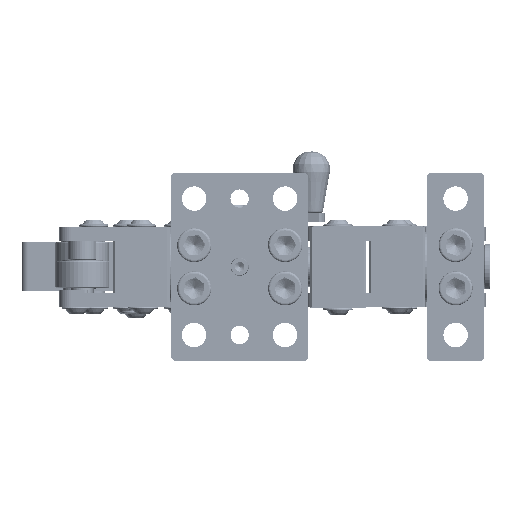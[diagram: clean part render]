
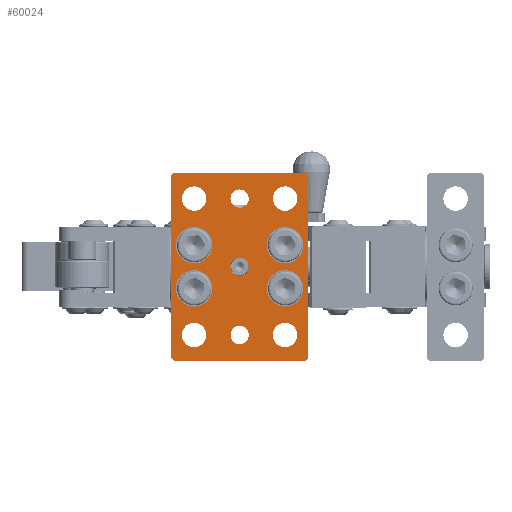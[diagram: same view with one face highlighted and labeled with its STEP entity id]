
A CAD part, left-side view. The second image highlights one B-rep face of the part: STEP entity #60024.
In plain terms, the highlighted planar face has unit normal (-1, 0, 0) as drawn and (0, 0, -1) by its records, which use the part's own axes.
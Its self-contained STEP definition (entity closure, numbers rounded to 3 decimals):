
#4392=FACE_BOUND('',#13162,.T.);
#4393=FACE_BOUND('',#13163,.T.);
#4394=FACE_BOUND('',#13164,.T.);
#4395=FACE_BOUND('',#13165,.T.);
#4396=FACE_BOUND('',#13166,.T.);
#4397=FACE_BOUND('',#13167,.T.);
#4398=FACE_BOUND('',#13168,.T.);
#4399=FACE_BOUND('',#13169,.T.);
#4400=FACE_BOUND('',#13170,.T.);
#4401=FACE_BOUND('',#13171,.T.);
#4402=FACE_BOUND('',#13172,.T.);
#6283=PLANE('',#63271);
#9265=FACE_OUTER_BOUND('',#13161,.T.);
#13161=EDGE_LOOP('',(#54195,#54196,#54197,#54198,#54199,#54200,#54201,#54202));
#13162=EDGE_LOOP('',(#54203));
#13163=EDGE_LOOP('',(#54204));
#13164=EDGE_LOOP('',(#54205));
#13165=EDGE_LOOP('',(#54206));
#13166=EDGE_LOOP('',(#54207));
#13167=EDGE_LOOP('',(#54208));
#13168=EDGE_LOOP('',(#54209));
#13169=EDGE_LOOP('',(#54210));
#13170=EDGE_LOOP('',(#54211));
#13171=EDGE_LOOP('',(#54212));
#13172=EDGE_LOOP('',(#54213));
#18946=LINE('',#102118,#24660);
#18953=LINE('',#102130,#24667);
#18959=LINE('',#102142,#24673);
#18961=LINE('',#102146,#24675);
#18963=LINE('',#102152,#24677);
#18965=LINE('',#102156,#24679);
#18970=LINE('',#102164,#24684);
#18973=LINE('',#102215,#24687);
#24660=VECTOR('',#73912,2.828);
#24667=VECTOR('',#73921,161.);
#24673=VECTOR('',#73931,2.828);
#24675=VECTOR('',#73935,116.);
#24677=VECTOR('',#73941,2.828);
#24679=VECTOR('',#73945,161.);
#24684=VECTOR('',#73952,2.828);
#24687=VECTOR('',#74019,116.);
#25924=CIRCLE('',#63197,8.05);
#25927=CIRCLE('',#63201,8.05);
#25928=CIRCLE('',#63203,8.05);
#25931=CIRCLE('',#63209,10.75);
#25935=CIRCLE('',#63216,10.75);
#25939=CIRCLE('',#63223,10.75);
#25942=CIRCLE('',#63229,10.75);
#25949=CIRCLE('',#63250,16.);
#25952=CIRCLE('',#63256,16.);
#25955=CIRCLE('',#63262,16.);
#25958=CIRCLE('',#63268,16.);
#30814=VERTEX_POINT('',#102059);
#30817=VERTEX_POINT('',#102066);
#30818=VERTEX_POINT('',#102069);
#30821=VERTEX_POINT('',#102078);
#30825=VERTEX_POINT('',#102089);
#30829=VERTEX_POINT('',#102100);
#30832=VERTEX_POINT('',#102109);
#30835=VERTEX_POINT('',#102115);
#30836=VERTEX_POINT('',#102117);
#30840=VERTEX_POINT('',#102128);
#30844=VERTEX_POINT('',#102140);
#30845=VERTEX_POINT('',#102144);
#30846=VERTEX_POINT('',#102149);
#30847=VERTEX_POINT('',#102151);
#30848=VERTEX_POINT('',#102155);
#30857=VERTEX_POINT('',#102184);
#30860=VERTEX_POINT('',#102193);
#30863=VERTEX_POINT('',#102202);
#30866=VERTEX_POINT('',#102211);
#38768=EDGE_CURVE('',#30814,#30814,#25924,.T.);
#38771=EDGE_CURVE('',#30817,#30817,#25927,.T.);
#38772=EDGE_CURVE('',#30818,#30818,#25928,.T.);
#38775=EDGE_CURVE('',#30821,#30821,#25931,.T.);
#38779=EDGE_CURVE('',#30825,#30825,#25935,.T.);
#38783=EDGE_CURVE('',#30829,#30829,#25939,.T.);
#38786=EDGE_CURVE('',#30832,#30832,#25942,.T.);
#38789=EDGE_CURVE('',#30835,#30836,#18946,.T.);
#38796=EDGE_CURVE('',#30835,#30840,#18953,.T.);
#38802=EDGE_CURVE('',#30844,#30840,#18959,.T.);
#38804=EDGE_CURVE('',#30844,#30845,#18961,.T.);
#38806=EDGE_CURVE('',#30846,#30847,#18963,.T.);
#38808=EDGE_CURVE('',#30848,#30847,#18965,.T.);
#38813=EDGE_CURVE('',#30848,#30845,#18970,.T.);
#38822=EDGE_CURVE('',#30857,#30857,#25949,.T.);
#38825=EDGE_CURVE('',#30860,#30860,#25952,.T.);
#38828=EDGE_CURVE('',#30863,#30863,#25955,.T.);
#38831=EDGE_CURVE('',#30866,#30866,#25958,.T.);
#38832=EDGE_CURVE('',#30846,#30836,#18973,.T.);
#54195=ORIENTED_EDGE('',*,*,#38789,.F.);
#54196=ORIENTED_EDGE('',*,*,#38796,.T.);
#54197=ORIENTED_EDGE('',*,*,#38802,.F.);
#54198=ORIENTED_EDGE('',*,*,#38804,.T.);
#54199=ORIENTED_EDGE('',*,*,#38813,.F.);
#54200=ORIENTED_EDGE('',*,*,#38808,.T.);
#54201=ORIENTED_EDGE('',*,*,#38806,.F.);
#54202=ORIENTED_EDGE('',*,*,#38832,.T.);
#54203=ORIENTED_EDGE('',*,*,#38768,.T.);
#54204=ORIENTED_EDGE('',*,*,#38771,.T.);
#54205=ORIENTED_EDGE('',*,*,#38772,.T.);
#54206=ORIENTED_EDGE('',*,*,#38775,.T.);
#54207=ORIENTED_EDGE('',*,*,#38779,.T.);
#54208=ORIENTED_EDGE('',*,*,#38783,.T.);
#54209=ORIENTED_EDGE('',*,*,#38786,.T.);
#54210=ORIENTED_EDGE('',*,*,#38822,.T.);
#54211=ORIENTED_EDGE('',*,*,#38825,.T.);
#54212=ORIENTED_EDGE('',*,*,#38828,.T.);
#54213=ORIENTED_EDGE('',*,*,#38831,.T.);
#60024=ADVANCED_FACE('',(#9265,#4392,#4393,#4394,#4395,#4396,#4397,#4398,
#4399,#4400,#4401,#4402),#6283,.F.);
#63197=AXIS2_PLACEMENT_3D('',#102060,#73842,#73843);
#63201=AXIS2_PLACEMENT_3D('',#102067,#73850,#73851);
#63203=AXIS2_PLACEMENT_3D('',#102070,#73854,#73855);
#63209=AXIS2_PLACEMENT_3D('',#102079,#73866,#73867);
#63216=AXIS2_PLACEMENT_3D('',#102090,#73880,#73881);
#63223=AXIS2_PLACEMENT_3D('',#102101,#73894,#73895);
#63229=AXIS2_PLACEMENT_3D('',#102110,#73906,#73907);
#63250=AXIS2_PLACEMENT_3D('',#102185,#73977,#73978);
#63256=AXIS2_PLACEMENT_3D('',#102194,#73989,#73990);
#63262=AXIS2_PLACEMENT_3D('',#102203,#74001,#74002);
#63268=AXIS2_PLACEMENT_3D('',#102212,#74013,#74014);
#63271=AXIS2_PLACEMENT_3D('',#102216,#74020,#74021);
#73842=DIRECTION('center_axis',(0.,0.,1.));
#73843=DIRECTION('ref_axis',(1.,0.,0.));
#73850=DIRECTION('center_axis',(0.,0.,1.));
#73851=DIRECTION('ref_axis',(1.,0.,0.));
#73854=DIRECTION('center_axis',(0.,0.,1.));
#73855=DIRECTION('ref_axis',(1.,0.,0.));
#73866=DIRECTION('center_axis',(0.,0.,1.));
#73867=DIRECTION('ref_axis',(1.,0.,0.));
#73880=DIRECTION('center_axis',(0.,0.,1.));
#73881=DIRECTION('ref_axis',(1.,0.,0.));
#73894=DIRECTION('center_axis',(0.,0.,1.));
#73895=DIRECTION('ref_axis',(1.,0.,0.));
#73906=DIRECTION('center_axis',(0.,0.,1.));
#73907=DIRECTION('ref_axis',(1.,0.,0.));
#73912=DIRECTION('',(-0.707,-0.707,0.));
#73921=DIRECTION('',(1.,0.,0.));
#73931=DIRECTION('',(-0.707,0.707,0.));
#73935=DIRECTION('',(0.,-1.,0.));
#73941=DIRECTION('',(0.707,-0.707,0.));
#73945=DIRECTION('',(-1.,0.,0.));
#73952=DIRECTION('',(0.707,0.707,0.));
#73977=DIRECTION('center_axis',(0.,0.,1.));
#73978=DIRECTION('ref_axis',(-1.,0.,0.));
#73989=DIRECTION('center_axis',(0.,0.,1.));
#73990=DIRECTION('ref_axis',(-1.,0.,0.));
#74001=DIRECTION('center_axis',(0.,0.,1.));
#74002=DIRECTION('ref_axis',(-1.,0.,0.));
#74013=DIRECTION('center_axis',(0.,0.,1.));
#74014=DIRECTION('ref_axis',(-1.,0.,0.));
#74019=DIRECTION('',(0.,1.,0.));
#74020=DIRECTION('center_axis',(0.,0.,1.));
#74021=DIRECTION('ref_axis',(1.,0.,0.));
#102059=CARTESIAN_POINT('',(-8.05,0.,0.));
#102060=CARTESIAN_POINT('Origin',(0.,0.,0.));
#102066=CARTESIAN_POINT('',(-51.95,0.,0.));
#102067=CARTESIAN_POINT('Origin',(-60.,0.,0.));
#102069=CARTESIAN_POINT('',(68.05,0.,0.));
#102070=CARTESIAN_POINT('Origin',(60.,0.,0.));
#102078=CARTESIAN_POINT('',(70.75,-40.,0.));
#102079=CARTESIAN_POINT('Origin',(60.,-40.,0.));
#102089=CARTESIAN_POINT('',(-49.25,40.,0.));
#102090=CARTESIAN_POINT('Origin',(-60.,40.,0.));
#102100=CARTESIAN_POINT('',(-49.25,-40.,0.));
#102101=CARTESIAN_POINT('Origin',(-60.,-40.,0.));
#102109=CARTESIAN_POINT('',(70.75,40.,0.));
#102110=CARTESIAN_POINT('Origin',(60.,40.,0.));
#102115=CARTESIAN_POINT('',(-80.5,60.,0.));
#102117=CARTESIAN_POINT('',(-82.5,58.,0.));
#102118=CARTESIAN_POINT('',(-75.875,64.625,0.));
#102128=CARTESIAN_POINT('',(80.5,60.,0.));
#102130=CARTESIAN_POINT('',(-82.5,60.,0.));
#102140=CARTESIAN_POINT('',(82.5,58.,0.));
#102142=CARTESIAN_POINT('',(75.875,64.625,0.));
#102144=CARTESIAN_POINT('',(82.5,-58.,0.));
#102146=CARTESIAN_POINT('',(82.5,60.,0.));
#102149=CARTESIAN_POINT('',(-82.5,-58.,0.));
#102151=CARTESIAN_POINT('',(-80.5,-60.,0.));
#102152=CARTESIAN_POINT('',(-75.875,-64.625,0.));
#102155=CARTESIAN_POINT('',(80.5,-60.,0.));
#102156=CARTESIAN_POINT('',(82.5,-60.,0.));
#102164=CARTESIAN_POINT('',(75.875,-64.625,0.));
#102184=CARTESIAN_POINT('',(-35.,-40.,0.));
#102185=CARTESIAN_POINT('Origin',(-19.,-40.,0.));
#102193=CARTESIAN_POINT('',(3.,40.,0.));
#102194=CARTESIAN_POINT('Origin',(19.,40.,0.));
#102202=CARTESIAN_POINT('',(3.,-40.,0.));
#102203=CARTESIAN_POINT('Origin',(19.,-40.,0.));
#102211=CARTESIAN_POINT('',(-35.,40.,0.));
#102212=CARTESIAN_POINT('Origin',(-19.,40.,0.));
#102215=CARTESIAN_POINT('',(-82.5,-60.,0.));
#102216=CARTESIAN_POINT('Origin',(0.,0.,0.));
